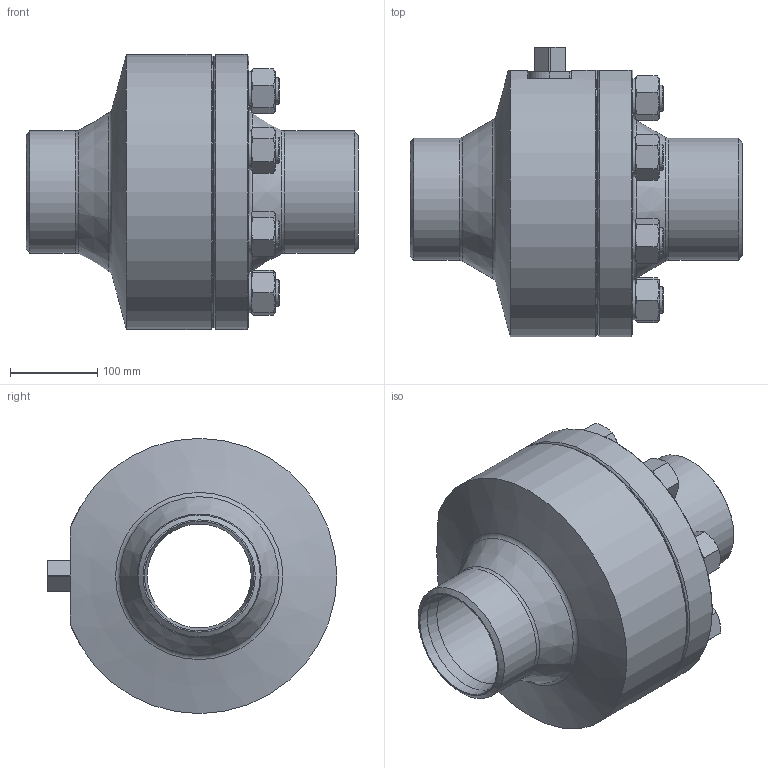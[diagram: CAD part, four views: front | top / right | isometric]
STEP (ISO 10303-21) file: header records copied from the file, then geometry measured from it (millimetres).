
FILE_DESCRIPTION((''),'2;1');
FILE_NAME('C:\Users\Bartek\Desktop\Nowy folder (2)\Nowy folder (22)\WK5b\WK5bc DN125 PN100_Substitute_1.stp','2024-09-18T09:12:46',('Bartek'),(''),'Autodesk Inventor 2012','Autodesk Inventor 2012','');
FILE_SCHEMA(('AUTOMOTIVE_DESIGN { 1 0 10303 214 1 1 1 1 }'));
Length unit declared in the file: millimetre
Products named in the file (1): WK5bc DN125 PN100_Substitute_1
Bounding box: 380 x 331.5 x 315 mm (x, y, z)
Volume: 11633191.6 mm3; surface area: 627244.4 mm2
Topology: 1 solids, 1 shells, 242 faces, 527 edges, 315 vertices
Faces by surface type: cone 114, plane 92, cylinder 32, torus 4
Full cylindrical faces by diameter (mm): 30 x8, 45 x8, 119 x1, 125.5 x2, 139.7 x2, 210 x1
Entity records: 6303 total; most frequent: CARTESIAN_POINT 1424, ORIENTED_EDGE 954, DIRECTION 947, EDGE_CURVE 477, AXIS2_PLACEMENT_3D 426, EDGE_LOOP 313, VERTEX_POINT 306, STYLED_ITEM 243
